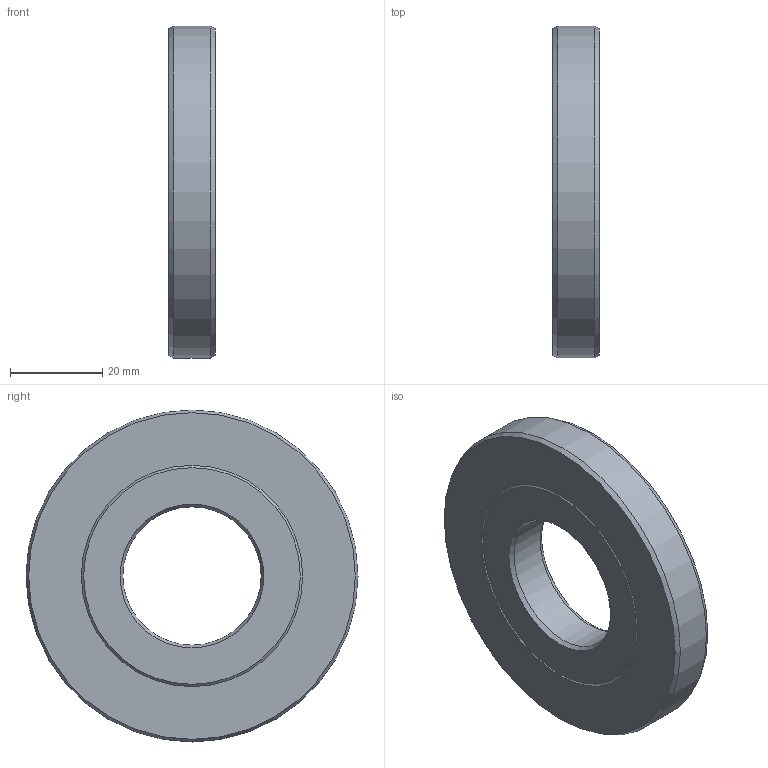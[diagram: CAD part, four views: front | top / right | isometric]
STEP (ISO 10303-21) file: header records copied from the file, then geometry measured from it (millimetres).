
FILE_DESCRIPTION(/* description */ (''),/* implementation_level */ '2;1');
FILE_NAME(/* name */ '301541 S30x72x10.stp',/* time_stamp */ '2016-12-16T13:33:38+01:00',/* author */ (''),/* organization */ (''),/* preprocessor_version */ 'ST-DEVELOPER v15',/* originating_system */ 'SIEMENS PLM Software NX 8.5',/* authorisation */ '');
FILE_SCHEMA (('CONFIG_CONTROL_DESIGN'));
Length unit declared in the file: millimetre
Products named in the file (1): ATE0000143_01
Bounding box: 10 x 72 x 72 mm (x, y, z)
Volume: 32613.2 mm3; surface area: 13918.1 mm2
Topology: 2 solids, 2 shells, 16 faces, 30 edges, 18 vertices
Faces by surface type: cone 10, plane 4, cylinder 2
Full cylindrical faces by diameter (mm): 30 x1, 72 x1
Entity records: 414 total; most frequent: DIRECTION 66, CARTESIAN_POINT 49, AXIS2_PLACEMENT_3D 33, FACE_BOUND 32, EDGE_LOOP 32, ORIENTED_EDGE 32, ADVANCED_FACE 16, VERTEX_POINT 16
